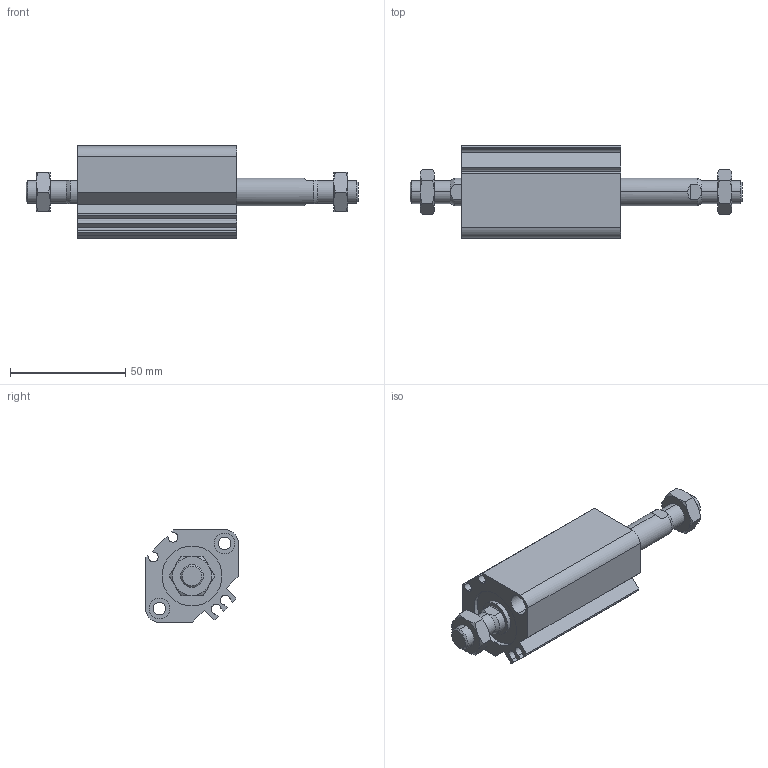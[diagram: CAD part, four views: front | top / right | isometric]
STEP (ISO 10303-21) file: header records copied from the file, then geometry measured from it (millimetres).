
FILE_DESCRIPTION (( 'STEP AP203' ), '1' );
FILE_NAME ('CCMB25-30M-P.STEP', '2020-08-10T11:29:04', ( '' ), ( '' ), 'SwSTEP 2.0', 'SolidWorks 2019', '' );
FILE_SCHEMA (( 'CONFIG_CONTROL_DESIGN' ));
Length unit declared in the file: millimetre
Products named in the file (1): CCMB25-30M-P
Bounding box: 144 x 40 x 40 mm (x, y, z)
Volume: 84612.1 mm3; surface area: 32378.2 mm2
Topology: 4 solids, 4 shells, 166 faces, 384 edges, 240 vertices
Faces by surface type: plane 66, cylinder 56, cone 44
Entity records: 5403 total; most frequent: CARTESIAN_POINT 1543, DIRECTION 806, ORIENTED_EDGE 768, EDGE_CURVE 384, AXIS2_PLACEMENT_3D 319, VERTEX_POINT 240, EDGE_LOOP 190, VECTOR 168
